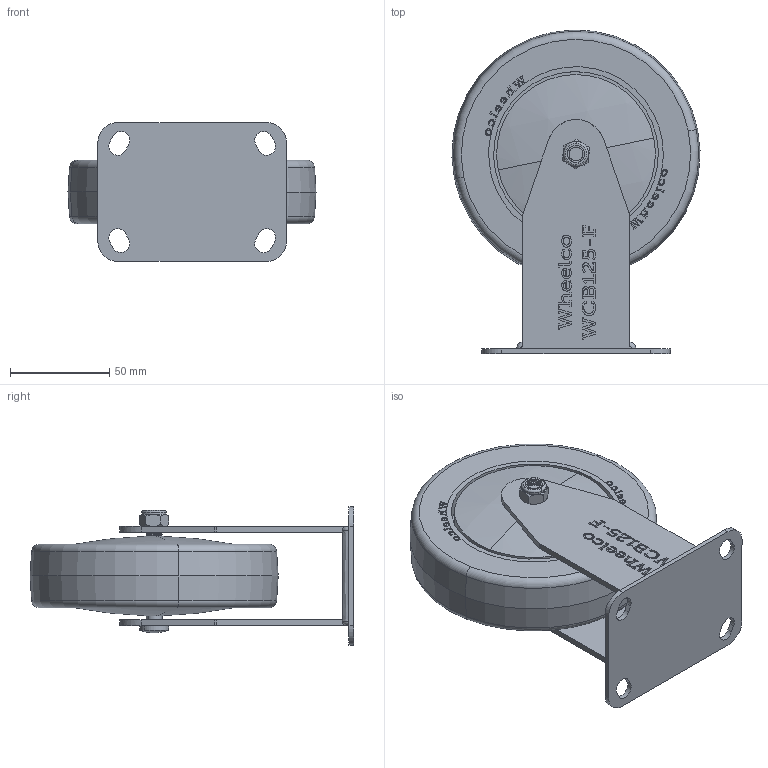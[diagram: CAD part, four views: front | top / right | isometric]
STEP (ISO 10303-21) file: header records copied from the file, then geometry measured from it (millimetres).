
FILE_DESCRIPTION (( 'STEP AP214' ), '1' );
FILE_NAME ('WCB125-F.step', '2024-01-12T00:39:12', ( '' ), ( '' ), 'SwSTEP 2.0', 'SolidWorks 2022', '' );
FILE_SCHEMA (( 'AUTOMOTIVE_DESIGN' ));
Length unit declared in the file: millimetre
Products named in the file (5): WCB125-F; WCB125; M8Nyloc; WC-M8x55
Assembly tree (4 placements, depth 2):
  WCB125-F
    WCB125-F
    WCB125
    WC-M8x55
    M8Nyloc
Bounding box: 124.95 x 163.12 x 70 mm (x, y, z)
Volume: 456098 mm3; surface area: 84195.4 mm2
Topology: 4 solids, 4 shells, 950 faces, 2680 edges, 1777 vertices
Faces by surface type: plane 535, bspline 310, cylinder 74, cone 18, torus 8, sphere 5
Entity records: 49516 total; most frequent: CARTESIAN_POINT 26822, ORIENTED_EDGE 5354, DIRECTION 3381, EDGE_CURVE 2677, VERTEX_POINT 1775, VECTOR 1771, LINE 1771, EDGE_LOOP 1006
